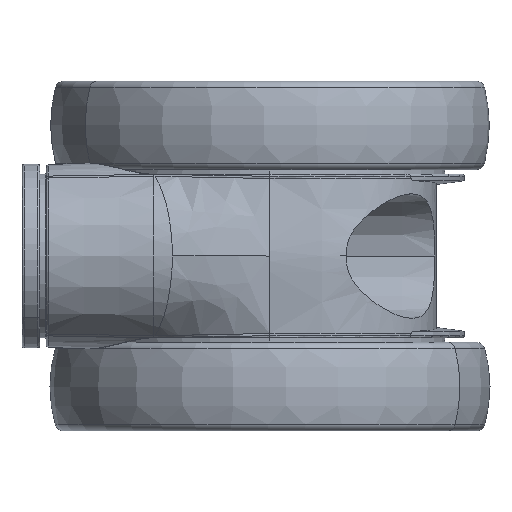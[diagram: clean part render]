
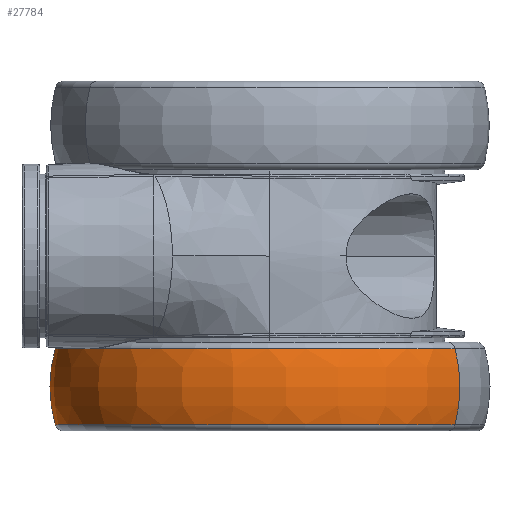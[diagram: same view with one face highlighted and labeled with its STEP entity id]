
A CAD part, left-side view. The second image highlights one B-rep face of the part: STEP entity #27784.
In plain terms, the highlighted toroidal (fillet/blend) face has major radius 19.75 mm and minor radius 30 mm.
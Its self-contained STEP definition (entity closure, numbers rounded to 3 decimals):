
#97 = VERTEX_POINT ( 'NONE', #112790 ) ;
#6408 = DIRECTION ( 'NONE',  ( 0.862, -0.507, 0. ) ) ;
#7788 = CIRCLE ( 'NONE', #17779, 48.499 ) ;
#9187 = DIRECTION ( 'NONE',  ( -0.507, -0.862, 0. ) ) ;
#12616 = FACE_OUTER_BOUND ( 'NONE', #106221, .T. ) ;
#13119 = CARTESIAN_POINT ( 'NONE',  ( 21.994, -67.028, -29.5 ) ) ;
#14340 = DIRECTION ( 'NONE',  ( -0.507, -0.862, 0. ) ) ;
#14361 = CARTESIAN_POINT ( 'NONE',  ( 7.429, -91.815, -38.071 ) ) ;
#17779 = AXIS2_PLACEMENT_3D ( 'NONE', #72622, #82301, #14340 ) ;
#18479 = DIRECTION ( 'NONE',  ( 0., 0., 1. ) ) ;
#21627 = CARTESIAN_POINT ( 'NONE',  ( 56.571, -8.185, -20.929 ) ) ;
#25107 = CIRCLE ( 'NONE', #41644, 30. ) ;
#27784 = ADVANCED_FACE ( 'NONE', ( #12616 ), #41185, .T. ) ;
#28987 = DIRECTION ( 'NONE',  ( 0., 0., 1. ) ) ;
#32135 = ORIENTED_EDGE ( 'NONE', *, *, #44852, .F. ) ;
#33859 = EDGE_CURVE ( 'NONE', #123659, #95235, #7788, .T. ) ;
#38645 = DIRECTION ( 'NONE',  ( -0.507, -0.862, 0. ) ) ;
#41185 = TOROIDAL_SURFACE ( 'NONE', #107834, 19.75, 30. ) ;
#41644 = AXIS2_PLACEMENT_3D ( 'NONE', #13119, #80657, #80240 ) ;
#44852 = EDGE_CURVE ( 'NONE', #123659, #89307, #93054, .T. ) ;
#50056 = CIRCLE ( 'NONE', #104499, 48.499 ) ;
#52002 = ORIENTED_EDGE ( 'NONE', *, *, #58295, .T. ) ;
#58295 = EDGE_CURVE ( 'NONE', #95235, #97, #25107, .T. ) ;
#60851 = AXIS2_PLACEMENT_3D ( 'NONE', #63988, #6408, #102682 ) ;
#60964 = CARTESIAN_POINT ( 'NONE',  ( 56.571, -8.185, -38.071 ) ) ;
#63988 = CARTESIAN_POINT ( 'NONE',  ( 42.006, -32.972, -29.5 ) ) ;
#69085 = ORIENTED_EDGE ( 'NONE', *, *, #33859, .T. ) ;
#72622 = CARTESIAN_POINT ( 'NONE',  ( 32., -50., -38.071 ) ) ;
#80240 = DIRECTION ( 'NONE',  ( -0.507, -0.862, 0. ) ) ;
#80657 = DIRECTION ( 'NONE',  ( -0.862, 0.507, 0. ) ) ;
#82301 = DIRECTION ( 'NONE',  ( 0., 0., 1. ) ) ;
#89307 = VERTEX_POINT ( 'NONE', #21627 ) ;
#93054 = CIRCLE ( 'NONE', #60851, 30. ) ;
#95235 = VERTEX_POINT ( 'NONE', #14361 ) ;
#95749 = CARTESIAN_POINT ( 'NONE',  ( 32., -50., -29.5 ) ) ;
#102682 = DIRECTION ( 'NONE',  ( 0.507, 0.862, 0. ) ) ;
#104499 = AXIS2_PLACEMENT_3D ( 'NONE', #114681, #18479, #9187 ) ;
#106221 = EDGE_LOOP ( 'NONE', ( #32135, #69085, #52002, #110573 ) ) ;
#107834 = AXIS2_PLACEMENT_3D ( 'NONE', #95749, #28987, #38645 ) ;
#110573 = ORIENTED_EDGE ( 'NONE', *, *, #122260, .F. ) ;
#112790 = CARTESIAN_POINT ( 'NONE',  ( 7.429, -91.815, -20.929 ) ) ;
#114681 = CARTESIAN_POINT ( 'NONE',  ( 32., -50., -20.929 ) ) ;
#122260 = EDGE_CURVE ( 'NONE', #89307, #97, #50056, .T. ) ;
#123659 = VERTEX_POINT ( 'NONE', #60964 ) ;
